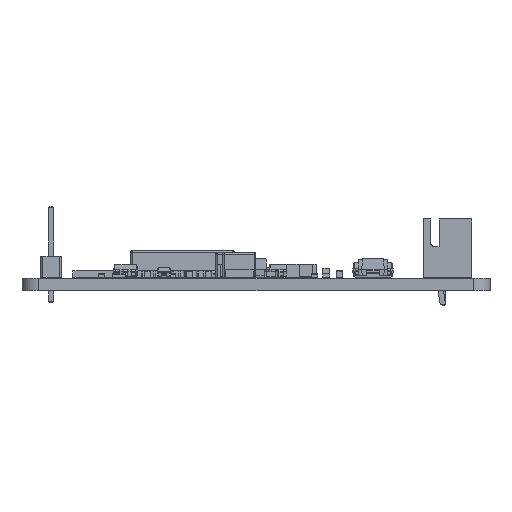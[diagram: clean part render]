
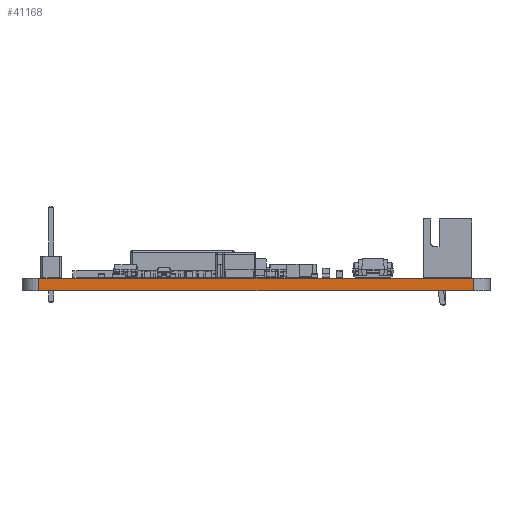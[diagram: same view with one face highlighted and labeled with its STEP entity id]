
A CAD part, left-side view. The second image highlights one B-rep face of the part: STEP entity #41168.
In plain terms, the highlighted planar face has unit normal (-1, 0, 0).
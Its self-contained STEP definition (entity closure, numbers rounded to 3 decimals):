
#40287 = VERTEX_POINT('',#40288);
#40288 = CARTESIAN_POINT('',(100.,-102.,0.));
#40295 = EDGE_CURVE('',#40296,#40287,#40298,.T.);
#40296 = VERTEX_POINT('',#40297);
#40297 = CARTESIAN_POINT('',(100.,-154.,0.));
#40298 = LINE('',#40299,#40300);
#40299 = CARTESIAN_POINT('',(100.,-154.,0.));
#40300 = VECTOR('',#40301,1.);
#40301 = DIRECTION('',(0.,1.,0.));
#40714 = VERTEX_POINT('',#40715);
#40715 = CARTESIAN_POINT('',(100.,-102.,1.51));
#40722 = EDGE_CURVE('',#40723,#40714,#40725,.T.);
#40723 = VERTEX_POINT('',#40724);
#40724 = CARTESIAN_POINT('',(100.,-154.,1.51));
#40725 = LINE('',#40726,#40727);
#40726 = CARTESIAN_POINT('',(100.,-154.,1.51));
#40727 = VECTOR('',#40728,1.);
#40728 = DIRECTION('',(0.,1.,0.));
#41138 = EDGE_CURVE('',#40287,#40714,#41139,.T.);
#41139 = LINE('',#41140,#41141);
#41140 = CARTESIAN_POINT('',(100.,-102.,0.));
#41141 = VECTOR('',#41142,1.);
#41142 = DIRECTION('',(0.,0.,1.));
#41168 = ADVANCED_FACE('',(#41169),#41180,.T.);
#41169 = FACE_BOUND('',#41170,.T.);
#41170 = EDGE_LOOP('',(#41171,#41177,#41178,#41179));
#41171 = ORIENTED_EDGE('',*,*,#41172,.T.);
#41172 = EDGE_CURVE('',#40296,#40723,#41173,.T.);
#41173 = LINE('',#41174,#41175);
#41174 = CARTESIAN_POINT('',(100.,-154.,0.));
#41175 = VECTOR('',#41176,1.);
#41176 = DIRECTION('',(0.,0.,1.));
#41177 = ORIENTED_EDGE('',*,*,#40722,.T.);
#41178 = ORIENTED_EDGE('',*,*,#41138,.F.);
#41179 = ORIENTED_EDGE('',*,*,#40295,.F.);
#41180 = PLANE('',#41181);
#41181 = AXIS2_PLACEMENT_3D('',#41182,#41183,#41184);
#41182 = CARTESIAN_POINT('',(100.,-154.,0.));
#41183 = DIRECTION('',(-1.,0.,0.));
#41184 = DIRECTION('',(0.,1.,0.));
